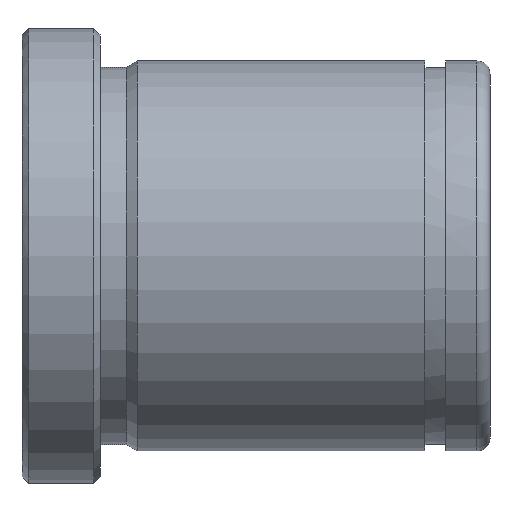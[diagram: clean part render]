
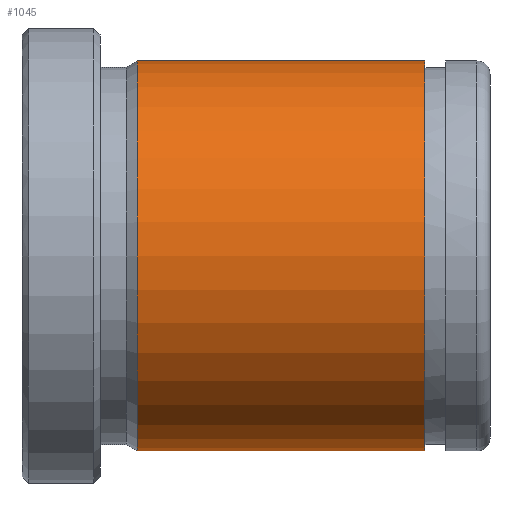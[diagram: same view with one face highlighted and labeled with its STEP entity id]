
A CAD part, front view. The second image highlights one B-rep face of the part: STEP entity #1045.
In plain terms, the highlighted cylindrical face has radius 15 mm (diameter 30 mm), a partial arc.
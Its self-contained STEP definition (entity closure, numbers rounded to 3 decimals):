
#851=CARTESIAN_POINT('Vertex',(8.866,0.,-15.)) ;
#858=CARTESIAN_POINT('Vertex',(8.866,0.,15.)) ;
#887=CARTESIAN_POINT('Axis2P3D Location',(8.866,0.,0.)) ;
#891=CARTESIAN_POINT('Vertex',(8.866,-15.,0.)) ;
#894=CARTESIAN_POINT('Axis2P3D Location',(8.866,0.,0.)) ;
#985=CARTESIAN_POINT('Line Origine',(72.,0.,15.)) ;
#989=CARTESIAN_POINT('Vertex',(31.,0.,15.)) ;
#1003=CARTESIAN_POINT('Vertex',(31.,0.,-15.)) ;
#1006=CARTESIAN_POINT('Line Origine',(72.,0.,-15.)) ;
#1020=CARTESIAN_POINT('Axis2P3D Location',(72.,0.,0.)) ;
#1025=CARTESIAN_POINT('Axis2P3D Location',(31.,0.,0.)) ;
#1029=CARTESIAN_POINT('Vertex',(31.,-15.,0.)) ;
#1032=CARTESIAN_POINT('Axis2P3D Location',(31.,0.,0.)) ;
#888=DIRECTION('Axis2P3D Direction',(1.,0.,-0.)) ;
#895=DIRECTION('Axis2P3D Direction',(1.,0.,-0.)) ;
#986=DIRECTION('Vector Direction',(-1.,0.,0.)) ;
#1007=DIRECTION('Vector Direction',(-1.,0.,0.)) ;
#1021=DIRECTION('Axis2P3D Direction',(-1.,-0.,-0.)) ;
#1022=DIRECTION('Axis2P3D XDirection',(0.,0.,-1.)) ;
#1026=DIRECTION('Axis2P3D Direction',(-1.,-0.,-0.)) ;
#1033=DIRECTION('Axis2P3D Direction',(-1.,-0.,-0.)) ;
#889=AXIS2_PLACEMENT_3D('Circle Axis2P3D',#887,#888,$) ;
#896=AXIS2_PLACEMENT_3D('Circle Axis2P3D',#894,#895,$) ;
#1023=AXIS2_PLACEMENT_3D('Cylinder Axis2P3D',#1020,#1021,#1022) ;
#1027=AXIS2_PLACEMENT_3D('Circle Axis2P3D',#1025,#1026,$) ;
#1034=AXIS2_PLACEMENT_3D('Circle Axis2P3D',#1032,#1033,$) ;
#1038=ORIENTED_EDGE('',*,*,#1010,.T.) ;
#1039=ORIENTED_EDGE('',*,*,#1031,.F.) ;
#1040=ORIENTED_EDGE('',*,*,#1036,.F.) ;
#1041=ORIENTED_EDGE('',*,*,#991,.T.) ;
#1042=ORIENTED_EDGE('',*,*,#898,.T.) ;
#1043=ORIENTED_EDGE('',*,*,#893,.T.) ;
#987=VECTOR('Line Direction',#986,1.) ;
#1008=VECTOR('Line Direction',#1007,1.) ;
#1045=ADVANCED_FACE('553-22X36',(#1044),#1024,.T.) ;
#890=CIRCLE('generated circle',#889,15.) ;
#897=CIRCLE('generated circle',#896,15.) ;
#1028=CIRCLE('generated circle',#1027,15.) ;
#1035=CIRCLE('generated circle',#1034,15.) ;
#1024=CYLINDRICAL_SURFACE('generated cylinder',#1023,15.) ;
#893=EDGE_CURVE('',#892,#852,#890,.T.) ;
#898=EDGE_CURVE('',#859,#892,#897,.T.) ;
#991=EDGE_CURVE('',#990,#859,#988,.T.) ;
#1010=EDGE_CURVE('',#852,#1004,#1009,.F.) ;
#1031=EDGE_CURVE('',#1030,#1004,#1028,.F.) ;
#1036=EDGE_CURVE('',#990,#1030,#1035,.F.) ;
#1037=EDGE_LOOP('',(#1038,#1039,#1040,#1041,#1042,#1043)) ;
#1044=FACE_OUTER_BOUND('',#1037,.T.) ;
#988=LINE('Line',#985,#987) ;
#1009=LINE('Line',#1006,#1008) ;
#852=VERTEX_POINT('',#851) ;
#859=VERTEX_POINT('',#858) ;
#892=VERTEX_POINT('',#891) ;
#990=VERTEX_POINT('',#989) ;
#1004=VERTEX_POINT('',#1003) ;
#1030=VERTEX_POINT('',#1029) ;
